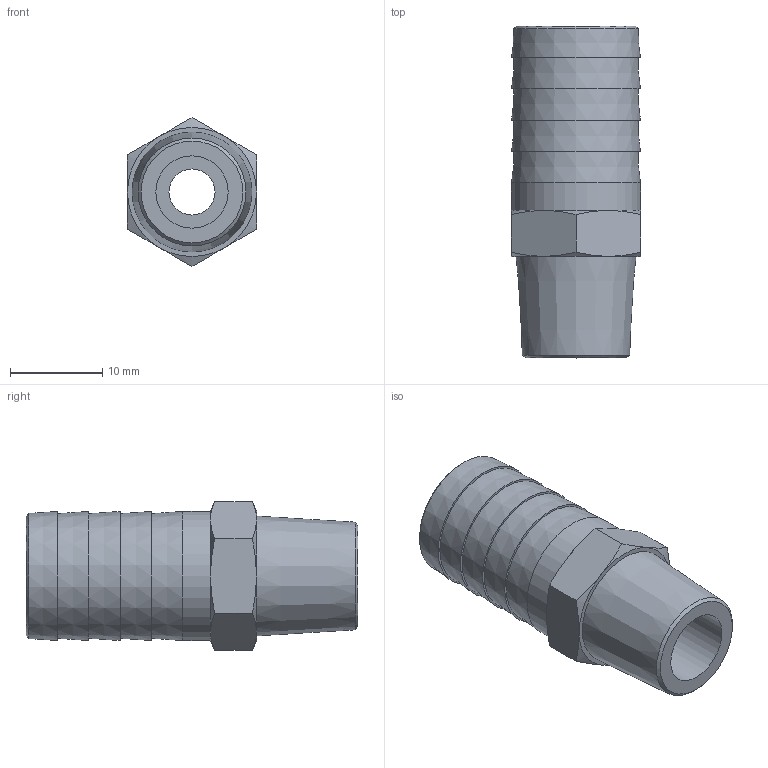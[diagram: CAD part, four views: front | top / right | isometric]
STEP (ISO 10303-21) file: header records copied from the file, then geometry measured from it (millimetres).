
FILE_DESCRIPTION(/* description */ (''),/* implementation_level */ '2;1');
FILE_NAME(/* name */ 'BXH09 14B2 00.stp',/* time_stamp */ '2026-06-22T11:03:37+02:00',/* author */ ('freju'),/* organization */ (''),/* preprocessor_version */ 'ST-DEVELOPER v20.1',/* originating_system */ 'Autodesk Inventor 2026',/* authorisation */ '');
FILE_SCHEMA (('AUTOMOTIVE_DESIGN { 1 0 10303 214 3 1 1 }'));
Length unit declared in the file: millimetre
Products named in the file (1): BXH09 14B2 00
Bounding box: 14 x 36 x 16.17 mm (x, y, z)
Volume: 4078.3 mm3; surface area: 2494.6 mm2
Topology: 1 solids, 1 shells, 37 faces, 74 edges, 45 vertices
Faces by surface type: cone 20, plane 14, cylinder 3
Full cylindrical faces by diameter (mm): 5 x1, 7.85 x1, 14 x1
Entity records: 980 total; most frequent: CARTESIAN_POINT 205, DIRECTION 159, ORIENTED_EDGE 148, EDGE_CURVE 74, AXIS2_PLACEMENT_3D 71, EDGE_LOOP 45, VERTEX_POINT 45, FACE_OUTER_BOUND 37
